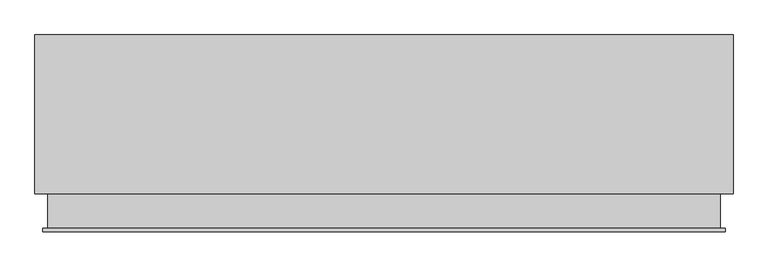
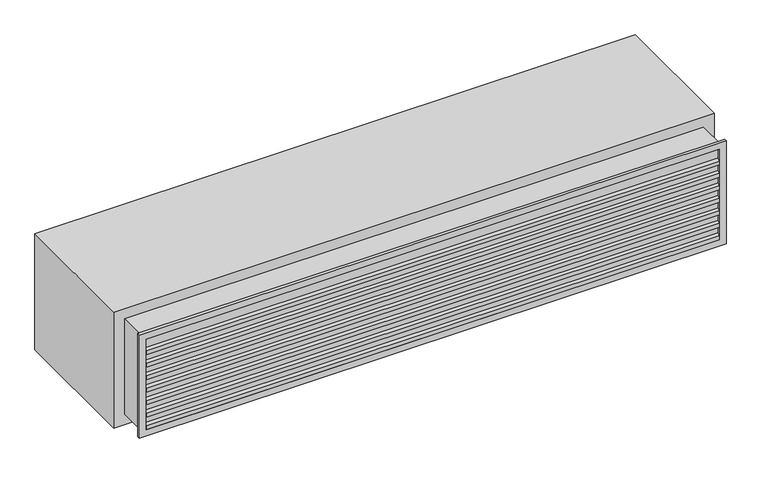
"""IFC4 building model written with IfcOpenShell, lengths in millimetres: air terminal geometry, 020_排気ガラリ : 排気ガラリ."""

from ifc_helpers import new_model, si_unit, frame, origin, place, context, project, spatial, polyline, outline, extrude, faceted_brep, source, transform, mapped, element, save


def air_terminal_5910a044(model_context):
    return source(origin(), model_context, "Body", "SolidModel", [
        extrude(outline(polyline([(48.0, 126.6666667), (50.0, 126.6666667), (50.0, 110.4494491), (-8.0, 80.4494491), (-8.0, 66.6666667), (-10.0, 66.6666667), (-10.0, 81.6666667), (48.0, 111.6666667), (48.0, 126.6666667)])), frame((-1050.0, 0.0, 0.0), z_axis=(1.0, 0.0, 0.0), x_axis=(0.0, 1.0, 0.0)), (0.0, 0.0, 1.0), 2100.0),
        extrude(outline(polyline([(48.0, 78.3333333), (50.0, 78.3333333), (50.0, 62.1161157), (-8.0, 32.1161157), (-8.0, 18.3333333), (-10.0, 18.3333333), (-10.0, 33.3333333), (48.0, 63.3333333), (48.0, 78.3333333)])), frame((-1050.0, 0.0, 0.0), z_axis=(1.0, 0.0, 0.0), x_axis=(0.0, 1.0, 0.0)), (0.0, 0.0, 1.0), 2100.0),
        extrude(outline(polyline([(48.0, 30.0), (50.0, 30.0), (50.0, 13.7827824), (-8.0, -16.2172176), (-8.0, -30.0), (-10.0, -30.0), (-10.0, -15.0), (48.0, 15.0), (48.0, 30.0)])), frame((-1050.0, 0.0, 0.0), z_axis=(1.0, 0.0, 0.0), x_axis=(0.0, 1.0, 0.0)), (0.0, 0.0, 1.0), 2100.0),
        extrude(outline(polyline([(48.0, -18.3333333), (50.0, -18.3333333), (50.0, -34.5505509), (-8.0, -64.5505509), (-8.0, -78.3333333), (-10.0, -78.3333333), (-10.0, -63.3333333), (48.0, -33.3333333), (48.0, -18.3333333)])), frame((-1050.0, 0.0, 0.0), z_axis=(1.0, 0.0, 0.0), x_axis=(0.0, 1.0, 0.0)), (0.0, 0.0, 1.0), 2100.0),
        extrude(outline(polyline([(48.0, -66.6666667), (50.0, -66.6666667), (50.0, -82.8838843), (-8.0, -112.8838843), (-8.0, -126.6666667), (-10.0, -126.6666667), (-10.0, -111.6666667), (48.0, -81.6666667), (48.0, -66.6666667)])), frame((-1050.0, 0.0, 0.0), z_axis=(1.0, 0.0, 0.0), x_axis=(0.0, 1.0, 0.0)), (0.0, 0.0, 1.0), 2100.0),
        extrude(outline(polyline([(48.0, 175.0), (50.0, 175.0), (50.0, 158.7827824), (-8.0, 128.7827824), (-8.0, 115.0), (-10.0, 115.0), (-10.0, 130.0), (48.0, 160.0), (48.0, 175.0)])), frame((-1050.0, 0.0, 0.0), z_axis=(1.0, 0.0, 0.0), x_axis=(0.0, 1.0, 0.0)), (0.0, 0.0, 1.0), 2100.0),
        extrude(outline(polyline([(48.0, -115.0), (50.0, -115.0), (50.0, -131.2172176), (-8.0, -161.2172176), (-8.0, -175.0), (-10.0, -175.0), (-10.0, -160.0), (48.0, -130.0), (48.0, -115.0)])), frame((-1050.0, 0.0, 0.0), z_axis=(1.0, 0.0, 0.0), x_axis=(0.0, 1.0, 0.0)), (0.0, 0.0, 1.0), 2100.0),
        faceted_brep([(1050.0, -10.0, 175.0), (1050.0, 110.0, 175.0), (1050.0, 110.0, -175.0), (1050.0, -10.0, -175.0), (1075.0, 0.0, 200.0), (1075.0, -10.0, 200.0), (1075.0, -10.0, -200.0), (1075.0, 0.0, -200.0), (1060.0, 110.0, 185.0), (1060.0, 0.0, 185.0), (1060.0, 0.0, -185.0), (1060.0, 110.0, -185.0), (-1050.0, 110.0, -175.0), (-1050.0, -10.0, -175.0), (-1075.0, -10.0, -200.0), (-1075.0, 0.0, -200.0), (-1060.0, 0.0, -185.0), (-1060.0, 110.0, -185.0), (-1050.0, 110.0, 175.0), (-1050.0, -10.0, 175.0), (-1075.0, -10.0, 200.0), (-1075.0, 0.0, 200.0), (-1060.0, 0.0, 185.0), (-1060.0, 110.0, 185.0)], [[[0, 1, 2, 3]], [[4, 5, 6, 7]], [[8, 9, 10, 11]], [[3, 2, 12, 13]], [[7, 6, 14, 15]], [[11, 10, 16, 17]], [[13, 12, 18, 19]], [[15, 14, 20, 21]], [[17, 16, 22, 23]], [[19, 18, 1, 0]], [[5, 20, 14, 6], [3, 13, 19, 0]], [[21, 20, 5, 4]], [[7, 15, 21, 4], [9, 22, 16, 10]], [[23, 22, 9, 8]], [[11, 17, 23, 8], [1, 18, 12, 2]]]),
        extrude(outline(polyline([(1050.0, 0.0), (-1050.0, 0.0), (-1050.0, 10.0), (1050.0, 10.0), (1050.0, 0.0)])), frame((0.0, 0.0, -175.0), z_axis=(0.0, 0.0, 1.0), x_axis=(1.0, 0.0, 0.0)), (0.0, 0.0, 1.0), 350.0),
        extrude(outline(polyline([(1100.0, 110.0), (-1100.0, 110.0), (-1100.0, 610.0), (1100.0, 610.0), (1100.0, 110.0)])), frame((0.0, 0.0, -225.0), z_axis=(0.0, 0.0, 1.0), x_axis=(1.0, 0.0, 0.0)), (0.0, 0.0, 1.0), 450.0),
    ])


if __name__ == "__main__":
    model = new_model("IFC4")
    model_context = context("Model", 3, world=origin())
    ifc_project = project(units=[si_unit("LENGTHUNIT", "METRE", prefix="MILLI")], contexts=[model_context])
    site = spatial("IfcSite", under=ifc_project)
    building = spatial("IfcBuilding", under=site)
    placement = place(None, origin())
    air_terminal_shape = air_terminal_5910a044(model_context)
    element("IfcAirTerminal", 1, ObjectType="020_排気ガラリ : 排気ガラリ", at=placement, inside=building, context=model_context, shape_type="MappedRepresentation", body=[
        mapped(air_terminal_shape, transform((0.0, 0.0, 0.0), x_axis=(1.0, 0.0, 0.0), y_axis=(0.0, 1.0, 0.0), z_axis=(0.0, 0.0, 1.0))),
    ])
    save(model, "model.ifc")
